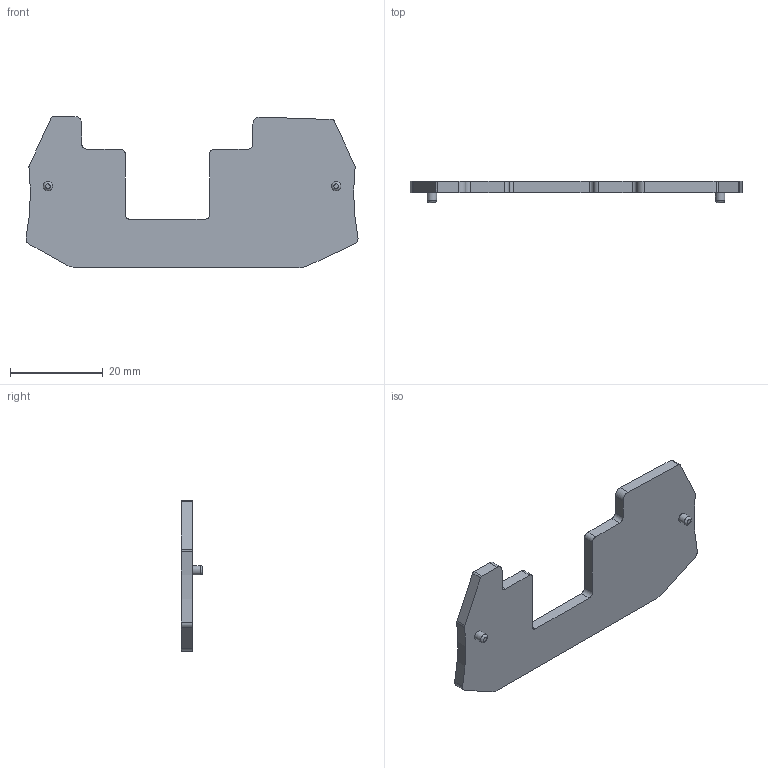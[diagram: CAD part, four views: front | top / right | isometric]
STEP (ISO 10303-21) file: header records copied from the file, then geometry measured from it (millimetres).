
FILE_DESCRIPTION( ('This file contains a STEP AP42 implementation' ,'as created by ZW3D STEP Interface translator.') ,'2;1' );
FILE_NAME( 'DP-RUTTB4.stp' ,'23 729.1356 4', (''), ('ZWCAD Software Co.'), 'Version 1.0', 'ZW3D to STEP translator', '' );
FILE_SCHEMA(('AUTOMOTIVE_DESIGN { 1 0 10303 214 1 1 1 1 }'));
Length unit declared in the file: millimetre
Products named in the file (2): 0; RUTTB4 HV_錨璃45
Bounding box: 71.42 x 4.6 x 32.5 mm (x, y, z)
Volume: 3878.8 mm3; surface area: 3946.2 mm2
Topology: 1 solids, 3 shells, 62 faces, 255 edges, 292 vertices
Faces by surface type: plane 34, cylinder 24, bspline 4
Full cylindrical faces by diameter (mm): 2 x2, 4 x1, 6 x1
Entity records: 4076 total; most frequent: CARTESIAN_POINT 1893, DIRECTION 470, ORIENTED_EDGE 326, AXIS2_PLACEMENT_3D 165, EDGE_CURVE 163, VECTOR 140, LINE 140, VERTEX_POINT 110
